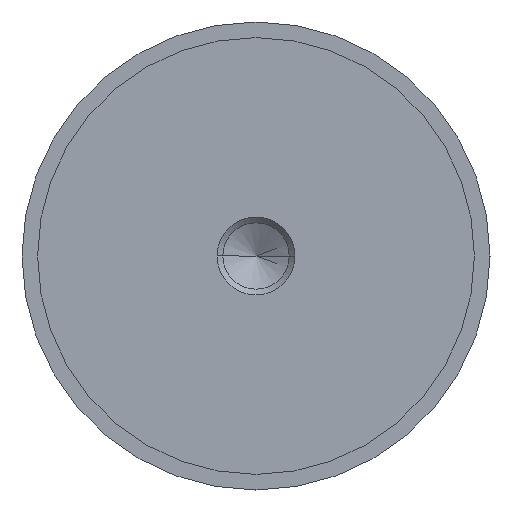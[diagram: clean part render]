
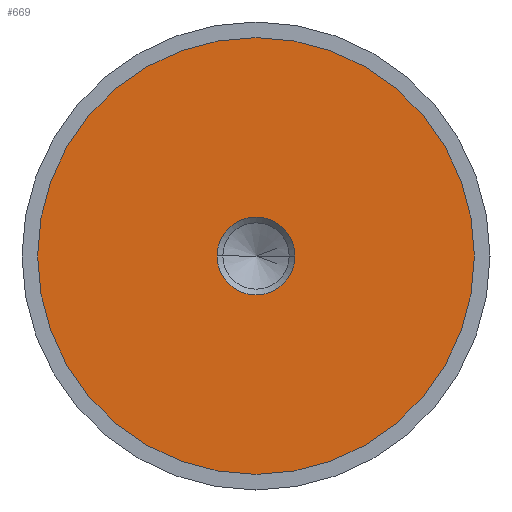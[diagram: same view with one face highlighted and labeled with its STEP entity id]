
A CAD part, left-side view. The second image highlights one B-rep face of the part: STEP entity #669.
In plain terms, the highlighted planar face has unit normal (-1, 0, 0).
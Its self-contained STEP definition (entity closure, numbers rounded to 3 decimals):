
#16 = AXIS2_PLACEMENT_3D ( 'NONE', #599, #414, #298 ) ;
#22 = DIRECTION ( 'NONE',  ( 0., 0., 1. ) ) ;
#27 = CIRCLE ( 'NONE', #491, 28. ) ;
#28 = CARTESIAN_POINT ( 'NONE',  ( -14.99, 0., 0. ) ) ;
#48 = CARTESIAN_POINT ( 'NONE',  ( -14.99, 4.99, 0. ) ) ;
#66 = CIRCLE ( 'NONE', #455, 4.99 ) ;
#68 = EDGE_LOOP ( 'NONE', ( #300, #392 ) ) ;
#70 = ORIENTED_EDGE ( 'NONE', *, *, #533, .T. ) ;
#133 = EDGE_CURVE ( 'NONE', #559, #647, #396, .T. ) ;
#147 = DIRECTION ( 'NONE',  ( 0., 0., -1. ) ) ;
#171 = ORIENTED_EDGE ( 'NONE', *, *, #218, .T. ) ;
#193 = FACE_OUTER_BOUND ( 'NONE', #636, .T. ) ;
#209 = DIRECTION ( 'NONE',  ( -1., 0., 0. ) ) ;
#218 = EDGE_CURVE ( 'NONE', #395, #321, #27, .T. ) ;
#277 = AXIS2_PLACEMENT_3D ( 'NONE', #516, #687, #147 ) ;
#286 = DIRECTION ( 'NONE',  ( -1., 0., 0. ) ) ;
#289 = DIRECTION ( 'NONE',  ( 1., 0., 0. ) ) ;
#295 = DIRECTION ( 'NONE',  ( 0., 0., -1. ) ) ;
#298 = DIRECTION ( 'NONE',  ( 0., 0., -1. ) ) ;
#300 = ORIENTED_EDGE ( 'NONE', *, *, #133, .T. ) ;
#321 = VERTEX_POINT ( 'NONE', #580 ) ;
#364 = FACE_BOUND ( 'NONE', #68, .T. ) ;
#387 = AXIS2_PLACEMENT_3D ( 'NONE', #764, #286, #590 ) ;
#392 = ORIENTED_EDGE ( 'NONE', *, *, #653, .T. ) ;
#393 = CARTESIAN_POINT ( 'NONE',  ( -14.99, -4.99, 0. ) ) ;
#395 = VERTEX_POINT ( 'NONE', #738 ) ;
#396 = CIRCLE ( 'NONE', #277, 4.99 ) ;
#414 = DIRECTION ( 'NONE',  ( 1., 0., 0. ) ) ;
#455 = AXIS2_PLACEMENT_3D ( 'NONE', #519, #289, #295 ) ;
#478 = PLANE ( 'NONE',  #16 ) ;
#491 = AXIS2_PLACEMENT_3D ( 'NONE', #28, #209, #22 ) ;
#516 = CARTESIAN_POINT ( 'NONE',  ( -14.99, 0., 0. ) ) ;
#519 = CARTESIAN_POINT ( 'NONE',  ( -14.99, 0., 0. ) ) ;
#530 = CIRCLE ( 'NONE', #387, 28. ) ;
#533 = EDGE_CURVE ( 'NONE', #321, #395, #530, .T. ) ;
#559 = VERTEX_POINT ( 'NONE', #393 ) ;
#580 = CARTESIAN_POINT ( 'NONE',  ( -14.99, 0., 28. ) ) ;
#590 = DIRECTION ( 'NONE',  ( 0., 0., 1. ) ) ;
#599 = CARTESIAN_POINT ( 'NONE',  ( -14.99, 28., 0. ) ) ;
#636 = EDGE_LOOP ( 'NONE', ( #70, #171 ) ) ;
#647 = VERTEX_POINT ( 'NONE', #48 ) ;
#653 = EDGE_CURVE ( 'NONE', #647, #559, #66, .T. ) ;
#669 = ADVANCED_FACE ( 'NONE', ( #364, #193 ), #478, .F. ) ;
#687 = DIRECTION ( 'NONE',  ( 1., 0., 0. ) ) ;
#738 = CARTESIAN_POINT ( 'NONE',  ( -14.99, 0., -28. ) ) ;
#764 = CARTESIAN_POINT ( 'NONE',  ( -14.99, 0., 0. ) ) ;
